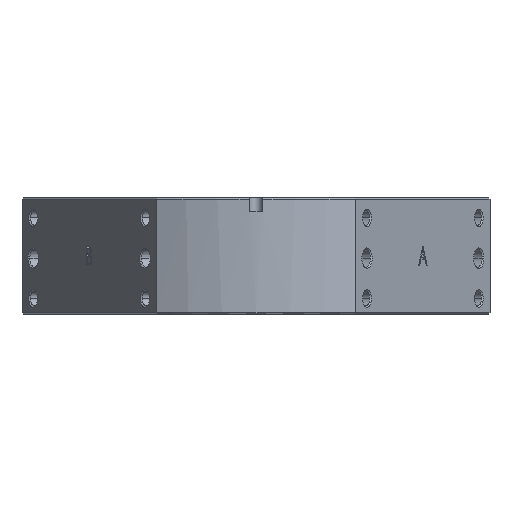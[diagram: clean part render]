
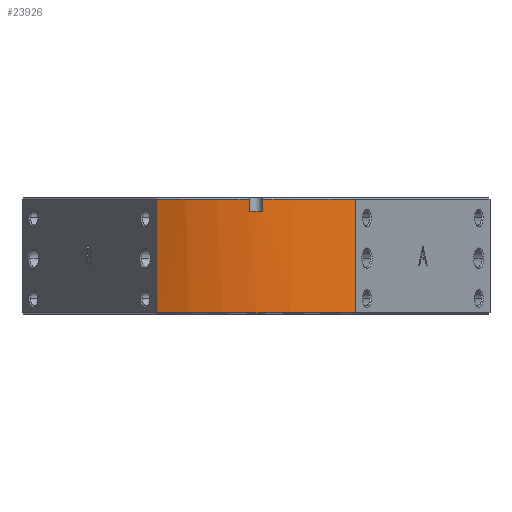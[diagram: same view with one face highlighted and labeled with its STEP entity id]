
A CAD part, front view. The second image highlights one B-rep face of the part: STEP entity #23926.
In plain terms, the highlighted cylindrical face has radius 52.5 mm (diameter 105 mm), a partial arc.
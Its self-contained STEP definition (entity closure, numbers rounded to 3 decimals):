
#966 = VECTOR ( 'NONE', #6227, 1000. ) ;
#1090 = CARTESIAN_POINT ( 'NONE',  ( -22.312, -47.523, -25.7 ) ) ;
#1570 = EDGE_CURVE ( 'NONE', #28441, #29144, #6019, .T. ) ;
#1734 = DIRECTION ( 'NONE',  ( 1., 0., 0. ) ) ;
#2577 = DIRECTION ( 'NONE',  ( 1., 0., 0. ) ) ;
#2733 = DIRECTION ( 'NONE',  ( 0., 0., -1. ) ) ;
#2757 = LINE ( 'NONE', #5732, #966 ) ;
#2881 = CARTESIAN_POINT ( 'NONE',  ( 0., 0., -0.3 ) ) ;
#4017 = ORIENTED_EDGE ( 'NONE', *, *, #11868, .T. ) ;
#4188 = DIRECTION ( 'NONE',  ( 0., 0., 1. ) ) ;
#4219 = VERTEX_POINT ( 'NONE', #9504 ) ;
#4236 = CARTESIAN_POINT ( 'NONE',  ( 0., 0., -26. ) ) ;
#4667 = DIRECTION ( 'NONE',  ( 1., 0., 0. ) ) ;
#4809 = CARTESIAN_POINT ( 'NONE',  ( 1.5, -52.479, -3. ) ) ;
#5163 = CARTESIAN_POINT ( 'NONE',  ( 22.312, -47.523, -26. ) ) ;
#5435 = DIRECTION ( 'NONE',  ( 0., 0., 1. ) ) ;
#5732 = CARTESIAN_POINT ( 'NONE',  ( -1.5, -52.479, -26. ) ) ;
#6019 = CIRCLE ( 'NONE', #25657, 52.5 ) ;
#6227 = DIRECTION ( 'NONE',  ( 0., 0., -1. ) ) ;
#6712 = VERTEX_POINT ( 'NONE', #34289 ) ;
#7156 = CARTESIAN_POINT ( 'NONE',  ( 22.312, -47.523, -25.7 ) ) ;
#8781 = AXIS2_PLACEMENT_3D ( 'NONE', #37345, #19789, #1734 ) ;
#9187 = VERTEX_POINT ( 'NONE', #7156 ) ;
#9504 = CARTESIAN_POINT ( 'NONE',  ( 1.5, -52.479, -0.3 ) ) ;
#9510 = VERTEX_POINT ( 'NONE', #1090 ) ;
#9686 = EDGE_CURVE ( 'NONE', #28441, #4219, #26219, .T. ) ;
#9711 = VERTEX_POINT ( 'NONE', #9750 ) ;
#9750 = CARTESIAN_POINT ( 'NONE',  ( -22.312, -47.523, -0.3 ) ) ;
#9821 = CARTESIAN_POINT ( 'NONE',  ( -1.5, -52.479, -3. ) ) ;
#10470 = EDGE_CURVE ( 'NONE', #28784, #29144, #2757, .T. ) ;
#11238 = CARTESIAN_POINT ( 'NONE',  ( 1.5, -52.479, -26. ) ) ;
#11868 = EDGE_CURVE ( 'NONE', #9187, #6712, #16531, .T. ) ;
#12415 = CIRCLE ( 'NONE', #15355, 52.5 ) ;
#14864 = AXIS2_PLACEMENT_3D ( 'NONE', #19552, #19731, #19955 ) ;
#15355 = AXIS2_PLACEMENT_3D ( 'NONE', #2881, #2733, #2577 ) ;
#16531 = LINE ( 'NONE', #5163, #16572 ) ;
#16572 = VECTOR ( 'NONE', #5435, 1000. ) ;
#17264 = EDGE_CURVE ( 'NONE', #9510, #9187, #20172, .T. ) ;
#17625 = EDGE_LOOP ( 'NONE', ( #24162, #28491, #30552, #30224, #29854, #25366, #4017, #35667 ) ) ;
#17849 = EDGE_CURVE ( 'NONE', #6712, #4219, #12415, .T. ) ;
#19552 = CARTESIAN_POINT ( 'NONE',  ( 0., 0., -25.7 ) ) ;
#19731 = DIRECTION ( 'NONE',  ( 0., 0., 1. ) ) ;
#19789 = DIRECTION ( 'NONE',  ( 0., 0., -1. ) ) ;
#19955 = DIRECTION ( 'NONE',  ( 1., 0., 0. ) ) ;
#20172 = CIRCLE ( 'NONE', #14864, 52.5 ) ;
#20412 = CIRCLE ( 'NONE', #8781, 52.5 ) ;
#20779 = VECTOR ( 'NONE', #37384, 1000. ) ;
#22267 = VECTOR ( 'NONE', #27521, 1000. ) ;
#23105 = LINE ( 'NONE', #27653, #22267 ) ;
#23926 = ADVANCED_FACE ( 'NONE', ( #34582 ), #34151, .T. ) ;
#24162 = ORIENTED_EDGE ( 'NONE', *, *, #9686, .F. ) ;
#24520 = EDGE_CURVE ( 'NONE', #9510, #9711, #23105, .T. ) ;
#25366 = ORIENTED_EDGE ( 'NONE', *, *, #17264, .T. ) ;
#25657 = AXIS2_PLACEMENT_3D ( 'NONE', #26959, #26918, #26887 ) ;
#26219 = LINE ( 'NONE', #11238, #20779 ) ;
#26887 = DIRECTION ( 'NONE',  ( 1., 0., 0. ) ) ;
#26918 = DIRECTION ( 'NONE',  ( 0., 0., -1. ) ) ;
#26959 = CARTESIAN_POINT ( 'NONE',  ( 0., 0., -3. ) ) ;
#27521 = DIRECTION ( 'NONE',  ( 0., 0., 1. ) ) ;
#27653 = CARTESIAN_POINT ( 'NONE',  ( -22.312, -47.523, -26. ) ) ;
#28441 = VERTEX_POINT ( 'NONE', #4809 ) ;
#28491 = ORIENTED_EDGE ( 'NONE', *, *, #1570, .T. ) ;
#28784 = VERTEX_POINT ( 'NONE', #30740 ) ;
#29144 = VERTEX_POINT ( 'NONE', #9821 ) ;
#29854 = ORIENTED_EDGE ( 'NONE', *, *, #24520, .F. ) ;
#30224 = ORIENTED_EDGE ( 'NONE', *, *, #36914, .T. ) ;
#30552 = ORIENTED_EDGE ( 'NONE', *, *, #10470, .F. ) ;
#30740 = CARTESIAN_POINT ( 'NONE',  ( -1.5, -52.479, -0.3 ) ) ;
#34151 = CYLINDRICAL_SURFACE ( 'NONE', #38064, 52.5 ) ;
#34289 = CARTESIAN_POINT ( 'NONE',  ( 22.312, -47.523, -0.3 ) ) ;
#34582 = FACE_OUTER_BOUND ( 'NONE', #17625, .T. ) ;
#35667 = ORIENTED_EDGE ( 'NONE', *, *, #17849, .T. ) ;
#36914 = EDGE_CURVE ( 'NONE', #28784, #9711, #20412, .T. ) ;
#37345 = CARTESIAN_POINT ( 'NONE',  ( 0., 0., -0.3 ) ) ;
#37384 = DIRECTION ( 'NONE',  ( 0., 0., 1. ) ) ;
#38064 = AXIS2_PLACEMENT_3D ( 'NONE', #4236, #4188, #4667 ) ;
